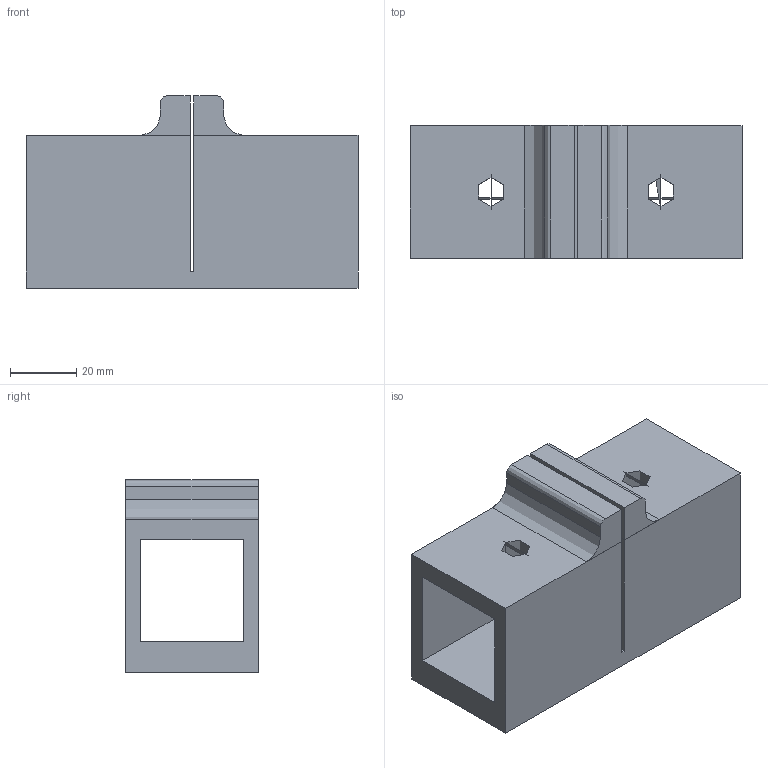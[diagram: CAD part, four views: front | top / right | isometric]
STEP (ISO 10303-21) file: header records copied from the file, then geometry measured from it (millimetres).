
FILE_DESCRIPTION(/* description */ (''),/* implementation_level */ '2;1');
FILE_NAME(/* name */ 'Sägehilfe für Gewindehülsen',/* time_stamp */ '2026-10-11T17:06:07+02:00',/* author */ (''),/* organization */ (''),/* preprocessor_version */ 'ST-DEVELOPER v19.2',/* originating_system */ 'Rhino 8.35',/* authorisation */ '');
FILE_SCHEMA (('CONFIG_CONTROL_DESIGN'));
Length unit declared in the file: millimetre
Products named in the file (1): Document
Bounding box: 100 x 40 x 57.88 mm (x, y, z)
Volume: 95541.6 mm3; surface area: 37668.9 mm2
Topology: 3 solids, 11 shells, 60 faces, 174 edges, 120 vertices
Faces by surface type: plane 30, cylinder 16, bspline 14
Entity records: 3028 total; most frequent: CARTESIAN_POINT 1694, ORIENTED_EDGE 288, EDGE_CURVE 160, DIRECTION 151, VERTEX_POINT 108, AXIS2_PLACEMENT_3D 97, B_SPLINE_CURVE_WITH_KNOTS 77, EDGE_LOOP 72
